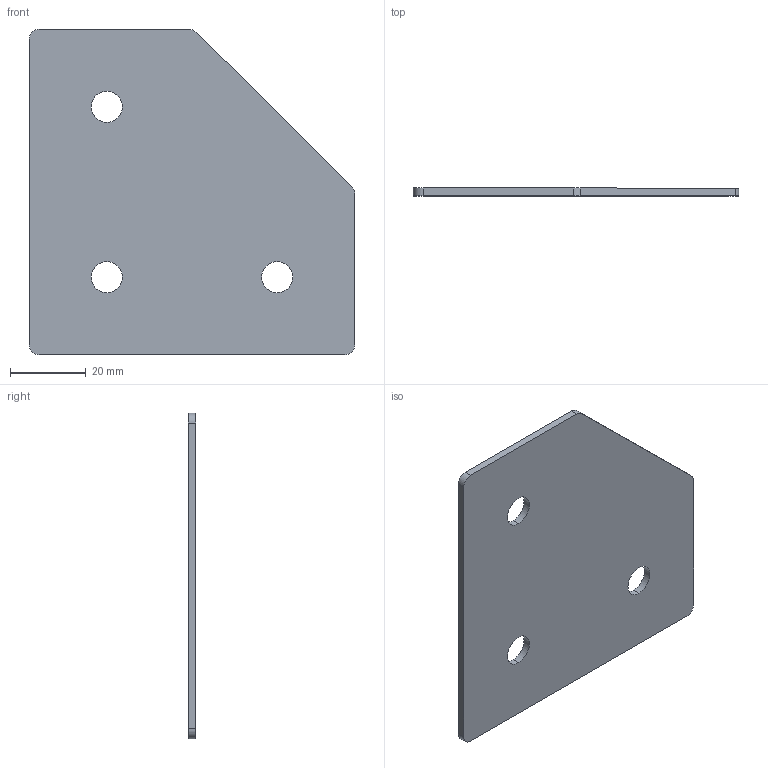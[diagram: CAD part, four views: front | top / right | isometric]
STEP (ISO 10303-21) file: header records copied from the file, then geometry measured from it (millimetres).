
FILE_DESCRIPTION (( 'STEP AP203' ), '1' );
FILE_NAME ('g-3-u-45.STEP', '2016-07-19T11:06:56', ( 'RosInstal-MKM' ), ( '' ), 'SwSTEP 2.0', 'SolidWorks 2014', '' );
FILE_SCHEMA (( 'CONFIG_CONTROL_DESIGN' ));
Length unit declared in the file: millimetre
Products named in the file (1): g-3-u-45
Bounding box: 86 x 2 x 86 mm (x, y, z)
Volume: 12660.1 mm3; surface area: 13445.8 mm2
Topology: 1 solids, 1 shells, 18 faces, 48 edges, 32 vertices
Faces by surface type: cylinder 11, plane 7
Entity records: 663 total; most frequent: DIRECTION 108, CARTESIAN_POINT 99, ORIENTED_EDGE 96, EDGE_CURVE 48, AXIS2_PLACEMENT_3D 41, VERTEX_POINT 32, VECTOR 26, LINE 26
